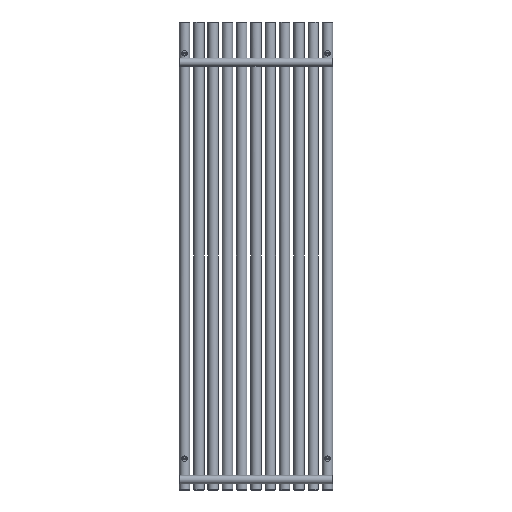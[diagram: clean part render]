
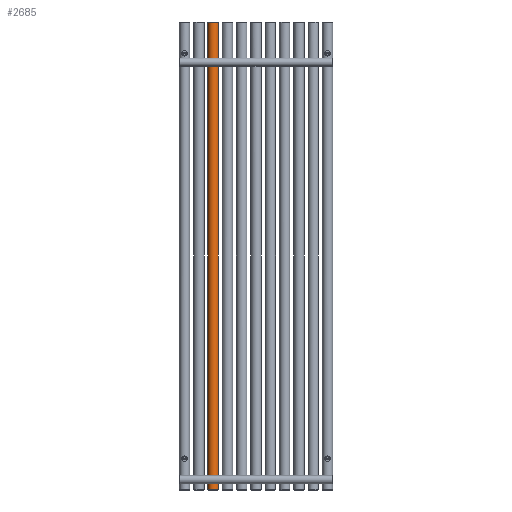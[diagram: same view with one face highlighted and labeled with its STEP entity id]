
A CAD part, front view. The second image highlights one B-rep face of the part: STEP entity #2685.
In plain terms, the highlighted cylindrical face has radius 20 mm (diameter 40 mm), a full revolution.
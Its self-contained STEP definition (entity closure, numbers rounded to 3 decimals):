
#199=FACE_BOUND('',#641,.T.);
#200=FACE_BOUND('',#642,.T.);
#247=LINE('',#5069,#327);
#327=VECTOR('',#3331,20.);
#407=CYLINDRICAL_SURFACE('',#2917,20.);
#447=FACE_OUTER_BOUND('',#640,.T.);
#640=EDGE_LOOP('',(#1884,#1885,#1886,#1887,#1888));
#641=EDGE_LOOP('',(#1889));
#642=EDGE_LOOP('',(#1890));
#872=B_SPLINE_CURVE_WITH_KNOTS('',3,(#5044,#5045,#5046,#5047,#5048,#5049,
#5050,#5051,#5052,#5053,#5054,#5055,#5056,#5057,#5058,#5059,#5060,#5061,
#5062,#5063),.UNSPECIFIED.,.T.,.F.,(4,1,1,1,1,1,1,1,1,1,1,1,1,1,1,1,1,4),
(-5.132,-4.765,-4.399,-3.91,
-3.788,-3.666,-3.421,-3.177,
-2.933,-2.444,-2.199,-1.955,
-1.711,-1.466,-1.1,-0.733,
-0.367,0.),.UNSPECIFIED.);
#873=B_SPLINE_CURVE_WITH_KNOTS('',3,(#5073,#5074,#5075,#5076,#5077,#5078,
#5079,#5080,#5081,#5082,#5083,#5084,#5085,#5086,#5087,#5088,#5089,#5090,
#5091,#5092,#5093,#5094,#5095,#5096,#5097,#5098,#5099,#5100,#5101,#5102,
#5103,#5104,#5105,#5106,#5107,#5108,#5109,#5110,#5111,#5112,#5113,#5114,
#5115,#5116,#5117,#5118,#5119,#5120,#5121,#5122,#5123,#5124,#5125,#5126,
#5127,#5128,#5129,#5130,#5131,#5132,#5133,#5134,#5135,#5136,#5137,#5138,
#5139,#5140,#5141,#5142),.UNSPECIFIED.,.T.,.F.,(4,3,3,3,3,3,3,3,3,3,3,3,
3,3,3,3,3,3,3,3,3,3,3,4),(-5.132,-4.765,-4.582,
-4.399,-4.338,-4.277,-4.154,
-3.91,-3.788,-3.666,-3.421,
-3.177,-2.933,-2.444,-2.199,
-2.077,-1.955,-1.711,-1.466,
-1.283,-1.1,-0.733,-0.367,
0.),.UNSPECIFIED.);
#947=CIRCLE('',#2918,20.);
#948=CIRCLE('',#2919,20.);
#949=CIRCLE('',#2920,20.);
#1182=VERTEX_POINT('',#5042);
#1183=VERTEX_POINT('',#5065);
#1184=VERTEX_POINT('',#5066);
#1185=VERTEX_POINT('',#5068);
#1186=VERTEX_POINT('',#5072);
#1464=EDGE_CURVE('',#1182,#1182,#872,.T.);
#1465=EDGE_CURVE('',#1183,#1184,#947,.T.);
#1466=EDGE_CURVE('',#1183,#1185,#247,.T.);
#1467=EDGE_CURVE('',#1185,#1185,#948,.T.);
#1468=EDGE_CURVE('',#1184,#1183,#949,.T.);
#1469=EDGE_CURVE('',#1186,#1186,#873,.T.);
#1884=ORIENTED_EDGE('',*,*,#1465,.F.);
#1885=ORIENTED_EDGE('',*,*,#1466,.T.);
#1886=ORIENTED_EDGE('',*,*,#1467,.F.);
#1887=ORIENTED_EDGE('',*,*,#1466,.F.);
#1888=ORIENTED_EDGE('',*,*,#1468,.F.);
#1889=ORIENTED_EDGE('',*,*,#1469,.F.);
#1890=ORIENTED_EDGE('',*,*,#1464,.F.);
#2685=ADVANCED_FACE('',(#447,#199,#200),#407,.T.);
#2917=AXIS2_PLACEMENT_3D('',#5064,#3327,#3328);
#2918=AXIS2_PLACEMENT_3D('',#5067,#3329,#3330);
#2919=AXIS2_PLACEMENT_3D('',#5070,#3332,#3333);
#2920=AXIS2_PLACEMENT_3D('',#5071,#3334,#3335);
#3327=DIRECTION('center_axis',(0.,0.,1.));
#3328=DIRECTION('ref_axis',(-1.,0.,0.));
#3329=DIRECTION('center_axis',(0.,0.,1.));
#3330=DIRECTION('ref_axis',(-1.,0.,0.));
#3331=DIRECTION('',(0.,0.,-1.));
#3332=DIRECTION('center_axis',(0.,0.,-1.));
#3333=DIRECTION('ref_axis',(-1.,0.,0.));
#3334=DIRECTION('center_axis',(0.,0.,1.));
#3335=DIRECTION('ref_axis',(-1.,0.,0.));
#5042=CARTESIAN_POINT('',(-440.,-20.,50.1));
#5044=CARTESIAN_POINT('Ctrl Pts',(-440.,-20.,50.1));
#5045=CARTESIAN_POINT('Ctrl Pts',(-441.611,-20.,50.1));
#5046=CARTESIAN_POINT('Ctrl Pts',(-444.831,-19.609,49.581));
#5047=CARTESIAN_POINT('Ctrl Pts',(-449.316,-17.862,46.748));
#5048=CARTESIAN_POINT('Ctrl Pts',(-451.001,-16.692,42.521));
#5049=CARTESIAN_POINT('Ctrl Pts',(-450.992,-16.71,39.163));
#5050=CARTESIAN_POINT('Ctrl Pts',(-450.668,-16.917,36.969));
#5051=CARTESIAN_POINT('Ctrl Pts',(-449.648,-17.555,34.431));
#5052=CARTESIAN_POINT('Ctrl Pts',(-447.535,-18.589,32.082));
#5053=CARTESIAN_POINT('Ctrl Pts',(-443.836,-19.82,30.087));
#5054=CARTESIAN_POINT('Ctrl Pts',(-439.419,-20.202,29.641));
#5055=CARTESIAN_POINT('Ctrl Pts',(-435.239,-19.503,30.58));
#5056=CARTESIAN_POINT('Ctrl Pts',(-432.466,-18.591,32.084));
#5057=CARTESIAN_POINT('Ctrl Pts',(-430.351,-17.553,34.428));
#5058=CARTESIAN_POINT('Ctrl Pts',(-428.927,-16.66,37.981));
#5059=CARTESIAN_POINT('Ctrl Pts',(-428.921,-16.659,42.599));
#5060=CARTESIAN_POINT('Ctrl Pts',(-431.137,-18.052,47.027));
#5061=CARTESIAN_POINT('Ctrl Pts',(-435.165,-19.6,49.585));
#5062=CARTESIAN_POINT('Ctrl Pts',(-438.389,-20.,50.1));
#5063=CARTESIAN_POINT('Ctrl Pts',(-440.,-20.,50.1));
#5064=CARTESIAN_POINT('Origin',(-440.,0.,0.));
#5065=CARTESIAN_POINT('',(-420.,0.,1798.));
#5066=CARTESIAN_POINT('',(-460.,0.,1798.));
#5067=CARTESIAN_POINT('Origin',(-440.,0.,1798.));
#5068=CARTESIAN_POINT('',(-420.,0.,2.));
#5069=CARTESIAN_POINT('',(-420.,0.,0.));
#5070=CARTESIAN_POINT('Origin',(-440.,0.,2.));
#5071=CARTESIAN_POINT('Origin',(-440.,0.,1798.));
#5072=CARTESIAN_POINT('',(-440.,-20.,1655.1));
#5073=CARTESIAN_POINT('Ctrl Pts',(-440.,-20.,1655.1));
#5074=CARTESIAN_POINT('Ctrl Pts',(-441.611,-20.,1655.1));
#5075=CARTESIAN_POINT('Ctrl Pts',(-443.224,-19.796,1654.84));
#5076=CARTESIAN_POINT('Ctrl Pts',(-444.701,-19.44,1654.287));
#5077=CARTESIAN_POINT('Ctrl Pts',(-445.439,-19.262,1654.01));
#5078=CARTESIAN_POINT('Ctrl Pts',(-446.144,-19.045,1653.66));
#5079=CARTESIAN_POINT('Ctrl Pts',(-446.794,-18.811,1653.231));
#5080=CARTESIAN_POINT('Ctrl Pts',(-447.443,-18.576,1652.803));
#5081=CARTESIAN_POINT('Ctrl Pts',(-448.038,-18.323,1652.295));
#5082=CARTESIAN_POINT('Ctrl Pts',(-448.559,-18.076,1651.713));
#5083=CARTESIAN_POINT('Ctrl Pts',(-448.733,-17.994,1651.519));
#5084=CARTESIAN_POINT('Ctrl Pts',(-448.899,-17.912,1651.317));
#5085=CARTESIAN_POINT('Ctrl Pts',(-449.056,-17.832,1651.107));
#5086=CARTESIAN_POINT('Ctrl Pts',(-449.213,-17.753,1650.897));
#5087=CARTESIAN_POINT('Ctrl Pts',(-449.361,-17.675,1650.68));
#5088=CARTESIAN_POINT('Ctrl Pts',(-449.5,-17.6,1650.455));
#5089=CARTESIAN_POINT('Ctrl Pts',(-449.778,-17.45,1650.005));
#5090=CARTESIAN_POINT('Ctrl Pts',(-450.019,-17.311,1649.528));
#5091=CARTESIAN_POINT('Ctrl Pts',(-450.221,-17.191,1649.028));
#5092=CARTESIAN_POINT('Ctrl Pts',(-450.624,-16.951,1648.028));
#5093=CARTESIAN_POINT('Ctrl Pts',(-450.87,-16.788,1646.94));
#5094=CARTESIAN_POINT('Ctrl Pts',(-450.952,-16.734,1645.833));
#5095=CARTESIAN_POINT('Ctrl Pts',(-450.993,-16.707,1645.28));
#5096=CARTESIAN_POINT('Ctrl Pts',(-450.992,-16.708,1644.722));
#5097=CARTESIAN_POINT('Ctrl Pts',(-450.952,-16.735,1644.168));
#5098=CARTESIAN_POINT('Ctrl Pts',(-450.911,-16.761,1643.615));
#5099=CARTESIAN_POINT('Ctrl Pts',(-450.829,-16.814,1643.066));
#5100=CARTESIAN_POINT('Ctrl Pts',(-450.707,-16.892,1642.531));
#5101=CARTESIAN_POINT('Ctrl Pts',(-450.463,-17.047,1641.46));
#5102=CARTESIAN_POINT('Ctrl Pts',(-450.056,-17.3,1640.446));
#5103=CARTESIAN_POINT('Ctrl Pts',(-449.5,-17.6,1639.547));
#5104=CARTESIAN_POINT('Ctrl Pts',(-448.944,-17.899,1638.648));
#5105=CARTESIAN_POINT('Ctrl Pts',(-448.239,-18.245,1637.865));
#5106=CARTESIAN_POINT('Ctrl Pts',(-447.425,-18.571,1637.224));
#5107=CARTESIAN_POINT('Ctrl Pts',(-446.61,-18.897,1636.583));
#5108=CARTESIAN_POINT('Ctrl Pts',(-445.685,-19.205,1636.085));
#5109=CARTESIAN_POINT('Ctrl Pts',(-444.701,-19.442,1635.715));
#5110=CARTESIAN_POINT('Ctrl Pts',(-442.731,-19.916,1634.976));
#5111=CARTESIAN_POINT('Ctrl Pts',(-440.523,-20.108,1634.753));
#5112=CARTESIAN_POINT('Ctrl Pts',(-438.393,-19.938,1634.992));
#5113=CARTESIAN_POINT('Ctrl Pts',(-437.329,-19.853,1635.111));
#5114=CARTESIAN_POINT('Ctrl Pts',(-436.284,-19.677,1635.345));
#5115=CARTESIAN_POINT('Ctrl Pts',(-435.299,-19.438,1635.714));
#5116=CARTESIAN_POINT('Ctrl Pts',(-434.807,-19.319,1635.898));
#5117=CARTESIAN_POINT('Ctrl Pts',(-434.33,-19.184,1636.115));
#5118=CARTESIAN_POINT('Ctrl Pts',(-433.874,-19.038,1636.367));
#5119=CARTESIAN_POINT('Ctrl Pts',(-433.418,-18.891,1636.618));
#5120=CARTESIAN_POINT('Ctrl Pts',(-432.983,-18.733,1636.904));
#5121=CARTESIAN_POINT('Ctrl Pts',(-432.576,-18.57,1637.224));
#5122=CARTESIAN_POINT('Ctrl Pts',(-431.761,-18.244,1637.865));
#5123=CARTESIAN_POINT('Ctrl Pts',(-431.056,-17.899,1638.647));
#5124=CARTESIAN_POINT('Ctrl Pts',(-430.5,-17.599,1639.545));
#5125=CARTESIAN_POINT('Ctrl Pts',(-429.943,-17.299,1640.444));
#5126=CARTESIAN_POINT('Ctrl Pts',(-429.536,-17.046,1641.459));
#5127=CARTESIAN_POINT('Ctrl Pts',(-429.292,-16.891,1642.53));
#5128=CARTESIAN_POINT('Ctrl Pts',(-429.109,-16.775,1643.332));
#5129=CARTESIAN_POINT('Ctrl Pts',(-429.018,-16.714,1644.166));
#5130=CARTESIAN_POINT('Ctrl Pts',(-429.017,-16.714,1645.));
#5131=CARTESIAN_POINT('Ctrl Pts',(-429.017,-16.714,1645.834));
#5132=CARTESIAN_POINT('Ctrl Pts',(-429.108,-16.774,1646.668));
#5133=CARTESIAN_POINT('Ctrl Pts',(-429.292,-16.891,1647.47));
#5134=CARTESIAN_POINT('Ctrl Pts',(-429.66,-17.125,1649.075));
#5135=CARTESIAN_POINT('Ctrl Pts',(-430.399,-17.587,1650.551));
#5136=CARTESIAN_POINT('Ctrl Pts',(-431.44,-18.076,1651.715));
#5137=CARTESIAN_POINT('Ctrl Pts',(-432.481,-18.566,1652.879));
#5138=CARTESIAN_POINT('Ctrl Pts',(-433.823,-19.084,1653.732));
#5139=CARTESIAN_POINT('Ctrl Pts',(-435.3,-19.442,1654.287));
#5140=CARTESIAN_POINT('Ctrl Pts',(-436.777,-19.801,1654.842));
#5141=CARTESIAN_POINT('Ctrl Pts',(-438.389,-20.,1655.1));
#5142=CARTESIAN_POINT('Ctrl Pts',(-440.,-20.,1655.1));
